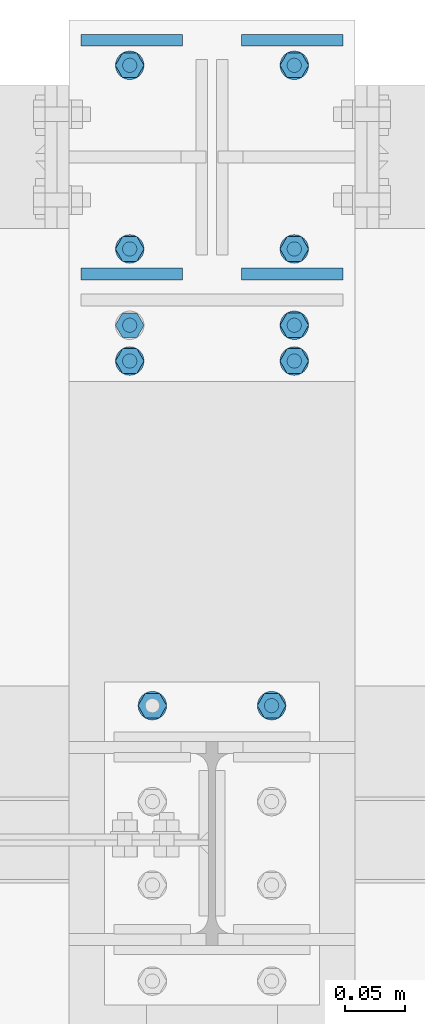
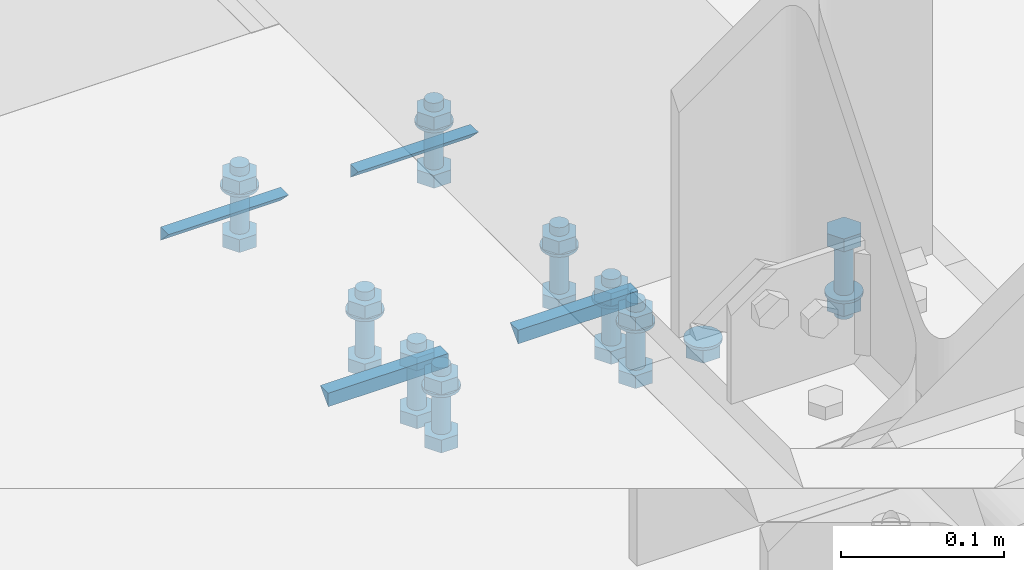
# One storey, part 44 of 66: 37 mechanical fasteners, 8 fasteners.
"""IFC4 building model written with IfcOpenShell, lengths in metres."""

from ifc_helpers import new_model, si_unit, frame, origin_with_axes, place, context, project, spatial, polyline, outline, extrude, type_object, element, save


model = new_model("IFC4")

# Units and contexts
model_context = context("Model", 3, precision=1e-05, world=origin_with_axes())
ifc_project = project(units=[si_unit("LENGTHUNIT", "METRE"), si_unit("AREAUNIT", "SQUARE_METRE"), si_unit("VOLUMEUNIT", "CUBIC_METRE"), si_unit("MASSUNIT", "GRAM", prefix="KILO"), si_unit("TIMEUNIT", "SECOND"), si_unit("PLANEANGLEUNIT", "RADIAN"), si_unit("SOLIDANGLEUNIT", "STERADIAN"), si_unit("THERMODYNAMICTEMPERATUREUNIT", "DEGREE_CELSIUS")], contexts=[model_context])

# Site, building, storey
placement_1 = place(None, origin_with_axes())
site = spatial("IfcSite", under=ifc_project, at=placement_1, Name="Italia", CompositionType="ELEMENT")
building = spatial("IfcBuilding", under=site, at=placement_1, Name="Uffici", CompositionType="ELEMENT")
storey_placement = place(None, frame((0.0, 0.0, 3.299999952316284), z_axis=(0.0, 0.0, 1.0), x_axis=(1.0, 0.0, 0.0)))
storey = spatial("IfcBuildingStorey", under=building, at=storey_placement, Name="Storey 1", CompositionType="ELEMENT", Elevation=3.299999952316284)

# Mechanical fasteners
mechanical_fastener_type_1 = type_object("IfcMechanicalFastenerType", Name="Collegamento 0107_0207", PredefinedType="BOLT")
placement_2 = place(placement_1, origin_with_axes())
mechanical_fastener_1_placement = place(placement_2, origin_with_axes())
element("IfcMechanicalFastener", 1, at=mechanical_fastener_1_placement, inside=storey, type_object=mechanical_fastener_type_1, Name="Collegamento 0107_0207", NominalDiameter=0.0119998, context=model_context, shape_type="SweptSolid", body=[
    extrude(outline(polyline([(0.0, 0.0), (0.0, 0.0120001), (0.0103922, 0.0180001), (0.0207844, 0.0120001), (0.0207844, 0.0), (0.0103922, -0.0059998), (0.0, 0.0)])), frame((3.161, 4.91961, 3.2714), z_axis=(0.0, 0.0, 1.0), x_axis=(0.0, 1.0, 0.0)), (0.0, 0.0, 1.0), 0.00959992),
])
mechanical_fastener_type_2 = type_object("IfcMechanicalFastenerType", Name="Collegamento 0107_0207", PredefinedType="BOLT")
mechanical_fastener_2_placement = place(placement_2, origin_with_axes())
element("IfcMechanicalFastener", 2, at=mechanical_fastener_2_placement, inside=storey, type_object=mechanical_fastener_type_2, Name="Collegamento 0107_0207", NominalDiameter=0.024, context=model_context, shape_type="SweptSolid", body=[
    extrude(outline(polyline([(0.0, 0.0), (-0.000409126, -0.00310588), (-0.00160789, -0.00600004), (-0.00351477, -0.00848532), (-0.00600004, -0.0103922), (-0.00889444, -0.0115912), (-0.0120001, -0.0120001), (-0.0151057, -0.0115912), (-0.0180001, -0.0103922), (-0.0204854, -0.00848532), (-0.0223923, -0.00600004), (-0.023591, -0.00310588), (-0.0240002, 0.0), (-0.023591, 0.00310588), (-0.0223923, 0.00600004), (-0.0204854, 0.00848532), (-0.0180001, 0.0103922), (-0.0151057, 0.0115912), (-0.0120001, 0.0120001), (-0.00889444, 0.0115912), (-0.00600004, 0.0103922), (-0.00351477, 0.00848532), (-0.00160789, 0.00600004), (-0.000409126, 0.00310588), (0.0, 0.0)])), frame((3.155, 4.942, 3.281), z_axis=(0.0, 0.0, 1.0), x_axis=(0.0, 1.0, 0.0)), (0.0, 0.0, 1.0), 0.00200009),
])
mechanical_fastener_type_3 = type_object("IfcMechanicalFastenerType", Name="Collegamento 0107_0207", PredefinedType="BOLT")
mechanical_fastener_3_placement = place(placement_2, origin_with_axes())
element("IfcMechanicalFastener", 3, at=mechanical_fastener_3_placement, inside=storey, type_object=mechanical_fastener_type_3, Name="Collegamento 0107_0207", NominalDiameter=0.0119998, context=model_context, shape_type="SweptSolid", body=[
    extrude(outline(polyline([(0.0, 0.0), (0.0, 0.0120001), (0.0103922, 0.0179999), (0.0207844, 0.0120001), (0.0207844, 0.0), (0.0103922, -0.00600004), (0.0, 0.0)])), frame((3.261, 4.91961, 3.32), z_axis=(0.0, 0.0, 1.0), x_axis=(0.0, 1.0, 0.0)), (0.0, 0.0, 1.0), 0.00959992),
])
mechanical_fastener_type_4 = type_object("IfcMechanicalFastenerType", Name="Collegamento 0107_0207", PredefinedType="BOLT")
mechanical_fastener_4_placement = place(placement_2, origin_with_axes())
element("IfcMechanicalFastener", 4, at=mechanical_fastener_4_placement, inside=storey, type_object=mechanical_fastener_type_4, Name="Collegamento 0107_0207", NominalDiameter=0.012, context=model_context, shape_type="SweptSolid", body=[
    extrude(outline(polyline([(0.0, 0.0), (-0.000204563, -0.00155282), (-0.000803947, -0.00300002), (-0.00175762, -0.00424266), (-0.00300026, -0.00519609), (-0.00444698, -0.00579548), (-0.00600004, -0.00600004), (-0.0075531, -0.00579548), (-0.00899982, -0.00519609), (-0.0102425, -0.00424266), (-0.0111961, -0.00300002), (-0.0117955, -0.00155282), (-0.0120001, 0.0), (-0.0117955, 0.00155282), (-0.0111961, 0.00300002), (-0.0102425, 0.00424266), (-0.00899982, 0.00519609), (-0.0075531, 0.00579548), (-0.00600004, 0.00600004), (-0.00444698, 0.00579548), (-0.00300026, 0.00519609), (-0.00175762, 0.00424266), (-0.000803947, 0.00300002), (-0.000204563, 0.00155282), (0.0, 0.0)])), frame((3.255, 4.936, 3.265), z_axis=(0.0, 0.0, 1.0), x_axis=(0.0, 1.0, 0.0)), (0.0, 0.0, 1.0), 0.0550001),
])
mechanical_fastener_type_5 = type_object("IfcMechanicalFastenerType", Name="Collegamento 0107_0207", PredefinedType="BOLT")
mechanical_fastener_5_placement = place(placement_2, origin_with_axes())
element("IfcMechanicalFastener", 5, at=mechanical_fastener_5_placement, inside=storey, type_object=mechanical_fastener_type_5, Name="Collegamento 0107_0207", NominalDiameter=0.0119998, context=model_context, shape_type="SweptSolid", body=[
    extrude(outline(polyline([(0.0, 0.0), (0.0, 0.0120001), (0.0103922, 0.0179999), (0.0207844, 0.0120001), (0.0207844, 0.0), (0.0103922, -0.00600004), (0.0, 0.0)])), frame((3.261, 4.91961, 3.2714), z_axis=(0.0, 0.0, 1.0), x_axis=(0.0, 1.0, 0.0)), (0.0, 0.0, 1.0), 0.00959992),
])
mechanical_fastener_type_6 = type_object("IfcMechanicalFastenerType", Name="Collegamento 0107_0207", PredefinedType="BOLT")
mechanical_fastener_6_placement = place(placement_2, origin_with_axes())
element("IfcMechanicalFastener", 6, at=mechanical_fastener_6_placement, inside=storey, type_object=mechanical_fastener_type_6, Name="Collegamento 0107_0207", NominalDiameter=0.024, context=model_context, shape_type="SweptSolid", body=[
    extrude(outline(polyline([(0.0, 0.0), (-0.000409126, -0.00310588), (-0.00160789, -0.00600004), (-0.00351477, -0.00848532), (-0.00600004, -0.0103922), (-0.00889444, -0.0115912), (-0.0120001, -0.0120001), (-0.0151057, -0.0115912), (-0.0180001, -0.0103922), (-0.0204854, -0.00848532), (-0.0223923, -0.00600004), (-0.023591, -0.00310588), (-0.0240002, 0.0), (-0.023591, 0.00310588), (-0.0223923, 0.00600004), (-0.0204854, 0.00848532), (-0.0180001, 0.0103922), (-0.0151057, 0.0115912), (-0.0120001, 0.0120001), (-0.00889444, 0.0115912), (-0.00600004, 0.0103922), (-0.00351477, 0.00848532), (-0.00160789, 0.00600004), (-0.000409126, 0.00310588), (0.0, 0.0)])), frame((3.255, 4.942, 3.281), z_axis=(0.0, 0.0, 1.0), x_axis=(0.0, 1.0, 0.0)), (0.0, 0.0, 1.0), 0.00200009),
])

# Fasteners
fastener_type_1 = type_object("IfcFastenerType", Name="Collegamenti 0111_0011 0112_0012 0113_0013 0114_0014 0115_0015", PredefinedType="WELD")
fastener_1_placement = place(placement_2, origin_with_axes())
element("IfcFastener", 7, at=fastener_1_placement, inside=storey, type_object=fastener_type_1, Name="Collegamenti 0111_0011 0112_0012 0113_0013 0114_0014 0115_0015", context=model_context, shape_type="SweptSolid", body=[
    extrude(outline(polyline([(0.0, 0.0), (-0.00986814, -0.0101733), (-0.00986814, 0.0), (0.0, 0.0)])), frame((3.31505, 5.48318, 3.04505), z_axis=(-1.0, 0.0, 0.0), x_axis=(0.0, -1.0, 0.0)), (0.0, 0.0, 1.0), 0.08535),
])
fastener_type_2 = type_object("IfcFastenerType", Name="Collegamenti 0111_0011 0112_0012 0113_0013 0114_0014 0115_0015", PredefinedType="WELD")
fastener_2_placement = place(placement_2, origin_with_axes())
element("IfcFastener", 8, at=fastener_2_placement, inside=storey, type_object=fastener_type_2, Name="Collegamenti 0111_0011 0112_0012 0113_0013 0114_0014 0115_0015", context=model_context, shape_type="SweptSolid", body=[
    extrude(outline(polyline([(0.0, 0.0), (-0.00986814, -0.0101733), (-0.00986814, 0.0), (0.0, 0.0)])), frame((3.2297, 5.29682, 3.04505), z_axis=(1.0, 0.0, 0.0), x_axis=(0.0, 1.0, 0.0)), (0.0, 0.0, 1.0), 0.08535),
])
fastener_type_3 = type_object("IfcFastenerType", Name="Collegamenti 0111_0011 0112_0012 0113_0013 0114_0014 0115_0015", PredefinedType="WELD")
fastener_3_placement = place(placement_2, origin_with_axes())
element("IfcFastener", 9, at=fastener_3_placement, inside=storey, type_object=fastener_type_3, Name="Collegamenti 0111_0011 0112_0012 0113_0013 0114_0014 0115_0015", context=model_context, shape_type="SweptSolid", body=[
    extrude(outline(polyline([(0.0, 0.0), (-0.00986814, -0.0101733), (-0.00986814, 0.0), (0.0, 0.0)])), frame((3.09495, 5.29682, 3.04505), z_axis=(1.0, 0.0, 0.0), x_axis=(0.0, 1.0, 0.0)), (0.0, 0.0, 1.0), 0.08535),
])
fastener_type_4 = type_object("IfcFastenerType", Name="Collegamenti 0111_0011 0112_0012 0113_0013 0114_0014 0115_0015", PredefinedType="WELD")
fastener_4_placement = place(placement_2, origin_with_axes())
element("IfcFastener", 10, at=fastener_4_placement, inside=storey, type_object=fastener_type_4, Name="Collegamenti 0111_0011 0112_0012 0113_0013 0114_0014 0115_0015", context=model_context, shape_type="SweptSolid", body=[
    extrude(outline(polyline([(0.0, 0.0), (-0.00986814, -0.0101733), (-0.00986814, 0.0), (0.0, 0.0)])), frame((3.1803, 5.48318, 3.04505), z_axis=(-1.0, 0.0, 0.0), x_axis=(0.0, -1.0, 0.0)), (0.0, 0.0, 1.0), 0.08535),
])
fastener_type_5 = type_object("IfcFastenerType", Name="Collegamenti 0111_0011 0112_0012 0113_0013 0114_0014 0115_0015", PredefinedType="WELD")
fastener_5_placement = place(placement_2, origin_with_axes())
element("IfcFastener", 11, at=fastener_5_placement, inside=storey, type_object=fastener_type_5, Name="Collegamenti 0111_0011 0112_0012 0113_0013 0114_0014 0115_0015", context=model_context, shape_type="SweptSolid", body=[
    extrude(outline(polyline([(0.0, 0.0), (-0.00986814, -0.0101733), (-0.00986814, 0.0), (0.0, 0.0)])), frame((3.31505, 5.48318, 3.04505), z_axis=(-1.0, 0.0, 0.0), x_axis=(0.0, -1.0, 0.0)), (0.0, 0.0, 1.0), 0.08535),
])
fastener_type_6 = type_object("IfcFastenerType", Name="Collegamenti 0111_0011 0112_0012 0113_0013 0114_0014 0115_0015", PredefinedType="WELD")
fastener_6_placement = place(placement_2, origin_with_axes())
element("IfcFastener", 12, at=fastener_6_placement, inside=storey, type_object=fastener_type_6, Name="Collegamenti 0111_0011 0112_0012 0113_0013 0114_0014 0115_0015", context=model_context, shape_type="SweptSolid", body=[
    extrude(outline(polyline([(0.0, 0.0), (-0.00986814, -0.0101733), (-0.00986814, 0.0), (0.0, 0.0)])), frame((3.2297, 5.29682, 3.04505), z_axis=(1.0, 0.0, 0.0), x_axis=(0.0, 1.0, 0.0)), (0.0, 0.0, 1.0), 0.08535),
])
fastener_type_7 = type_object("IfcFastenerType", Name="Collegamenti 0111_0011 0112_0012 0113_0013 0114_0014 0115_0015", PredefinedType="WELD")
fastener_7_placement = place(placement_2, origin_with_axes())
element("IfcFastener", 13, at=fastener_7_placement, inside=storey, type_object=fastener_type_7, Name="Collegamenti 0111_0011 0112_0012 0113_0013 0114_0014 0115_0015", context=model_context, shape_type="SweptSolid", body=[
    extrude(outline(polyline([(0.0, 0.0), (-0.00986814, -0.0101733), (-0.00986814, 0.0), (0.0, 0.0)])), frame((3.09495, 5.29682, 3.04505), z_axis=(1.0, 0.0, 0.0), x_axis=(0.0, 1.0, 0.0)), (0.0, 0.0, 1.0), 0.08535),
])
fastener_type_8 = type_object("IfcFastenerType", Name="Collegamenti 0111_0011 0112_0012 0113_0013 0114_0014 0115_0015", PredefinedType="WELD")
fastener_8_placement = place(placement_2, origin_with_axes())
element("IfcFastener", 14, at=fastener_8_placement, inside=storey, type_object=fastener_type_8, Name="Collegamenti 0111_0011 0112_0012 0113_0013 0114_0014 0115_0015", context=model_context, shape_type="SweptSolid", body=[
    extrude(outline(polyline([(0.0, 0.0), (-0.00986814, -0.0101733), (-0.00986814, 0.0), (0.0, 0.0)])), frame((3.1803, 5.48318, 3.04505), z_axis=(-1.0, 0.0, 0.0), x_axis=(0.0, -1.0, 0.0)), (0.0, 0.0, 1.0), 0.08535),
])

# Mechanical fasteners
mechanical_fastener_type_7 = type_object("IfcMechanicalFastenerType", Name="Collegamenti 0111_0011 0112_0012 0113_0013 0114_0014 0115_0015", PredefinedType="BOLT")
mechanical_fastener_7_placement = place(placement_2, origin_with_axes())
element("IfcMechanicalFastener", 15, at=mechanical_fastener_7_placement, inside=storey, type_object=mechanical_fastener_type_7, Name="Collegamenti 0111_0011 0112_0012 0113_0013 0114_0014 0115_0015", NominalDiameter=0.0119999, context=model_context, shape_type="SweptSolid", body=[
    extrude(outline(polyline([(0.0, 0.0), (0.0, 0.0120001), (0.0103922, 0.0180001), (0.0207849, 0.0120001), (0.0207849, 0.0), (0.0103922, -0.00600004), (0.0, 0.0)])), frame((3.268, 5.30261, 3.045), z_axis=(0.0, 0.0, -1.0), x_axis=(0.0, 1.0, 0.0)), (0.0, 0.0, 1.0), 0.00959992),
])
mechanical_fastener_type_8 = type_object("IfcMechanicalFastenerType", Name="Collegamenti 0111_0011 0112_0012 0113_0013 0114_0014 0115_0015", PredefinedType="BOLT")
mechanical_fastener_8_placement = place(placement_2, origin_with_axes())
element("IfcMechanicalFastener", 16, at=mechanical_fastener_8_placement, inside=storey, type_object=mechanical_fastener_type_8, Name="Collegamenti 0111_0011 0112_0012 0113_0013 0114_0014 0115_0015", NominalDiameter=0.012, context=model_context, shape_type="SweptSolid", body=[
    extrude(outline(polyline([(0.0, 0.0), (-0.000204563, -0.00155282), (-0.000803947, -0.00300002), (-0.00175762, -0.00424266), (-0.00300026, -0.00519609), (-0.00444698, -0.00579548), (-0.00600004, -0.00600004), (-0.0075531, -0.00579548), (-0.00899982, -0.00519609), (-0.0102425, -0.00424266), (-0.0111961, -0.00300002), (-0.0117955, -0.00155282), (-0.0120001, 0.0), (-0.0117955, 0.00155282), (-0.0111961, 0.00300002), (-0.0102425, 0.00424266), (-0.00899982, 0.00519609), (-0.0075531, 0.00579548), (-0.00600004, 0.00600004), (-0.00444698, 0.00579548), (-0.00300026, 0.00519609), (-0.00175762, 0.00424266), (-0.000803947, 0.00300002), (-0.000204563, 0.00155282), (0.0, 0.0)])), frame((3.274, 5.319, 3.095), z_axis=(0.0, 0.0, -1.0), x_axis=(0.0, 1.0, 0.0)), (0.0, 0.0, 1.0), 0.0500002),
])
mechanical_fastener_type_9 = type_object("IfcMechanicalFastenerType", Name="Collegamenti 0111_0011 0112_0012 0113_0013 0114_0014 0115_0015", PredefinedType="BOLT")
mechanical_fastener_9_placement = place(placement_2, origin_with_axes())
element("IfcMechanicalFastener", 17, at=mechanical_fastener_9_placement, inside=storey, type_object=mechanical_fastener_type_9, Name="Collegamenti 0111_0011 0112_0012 0113_0013 0114_0014 0115_0015", NominalDiameter=0.0119999, context=model_context, shape_type="SweptSolid", body=[
    extrude(outline(polyline([(0.0, 0.0), (0.0, 0.0120001), (0.0103922, 0.0180001), (0.0207849, 0.0120001), (0.0207849, 0.0), (0.0103922, -0.00600004), (0.0, 0.0)])), frame((3.268, 5.30261, 3.0886), z_axis=(0.0, 0.0, -1.0), x_axis=(0.0, 1.0, 0.0)), (0.0, 0.0, 1.0), 0.00959992),
])
mechanical_fastener_type_10 = type_object("IfcMechanicalFastenerType", Name="Collegamenti 0111_0011 0112_0012 0113_0013 0114_0014 0115_0015", PredefinedType="BOLT")
mechanical_fastener_10_placement = place(placement_2, origin_with_axes())
element("IfcMechanicalFastener", 18, at=mechanical_fastener_10_placement, inside=storey, type_object=mechanical_fastener_type_10, Name="Collegamenti 0111_0011 0112_0012 0113_0013 0114_0014 0115_0015", NominalDiameter=0.024, context=model_context, shape_type="SweptSolid", body=[
    extrude(outline(polyline([(0.0, 0.0), (-0.000409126, -0.00310588), (-0.00160789, -0.00600004), (-0.00351477, -0.00848532), (-0.00600004, -0.0103922), (-0.00889444, -0.0115912), (-0.0120001, -0.0120001), (-0.0151057, -0.0115912), (-0.0180001, -0.0103922), (-0.0204854, -0.00848532), (-0.0223923, -0.00600004), (-0.023591, -0.00310588), (-0.0240002, 0.0), (-0.023591, 0.00310588), (-0.0223923, 0.00600004), (-0.0204854, 0.00848532), (-0.0180001, 0.0103922), (-0.0151057, 0.0115912), (-0.0120001, 0.0120001), (-0.00889444, 0.0115912), (-0.00600004, 0.0103922), (-0.00351477, 0.00848532), (-0.00160789, 0.00600004), (-0.000409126, 0.00310588), (0.0, 0.0)])), frame((3.274, 5.325, 3.079), z_axis=(0.0, 0.0, -1.0), x_axis=(0.0, 1.0, 0.0)), (0.0, 0.0, 1.0), 0.00200009),
])
mechanical_fastener_type_11 = type_object("IfcMechanicalFastenerType", Name="Collegamenti 0111_0011 0112_0012 0113_0013 0114_0014 0115_0015", PredefinedType="BOLT")
mechanical_fastener_11_placement = place(placement_2, origin_with_axes())
element("IfcMechanicalFastener", 19, at=mechanical_fastener_11_placement, inside=storey, type_object=mechanical_fastener_type_11, Name="Collegamenti 0111_0011 0112_0012 0113_0013 0114_0014 0115_0015", NominalDiameter=0.0119999, context=model_context, shape_type="SweptSolid", body=[
    extrude(outline(polyline([(0.0, 0.0), (0.0, 0.0120001), (0.0103922, 0.0180001), (0.0207849, 0.0120001), (0.0207849, 0.0), (0.0103922, -0.00600004), (0.0, 0.0)])), frame((3.13, 5.30261, 3.045), z_axis=(0.0, 0.0, -1.0), x_axis=(0.0, 1.0, 0.0)), (0.0, 0.0, 1.0), 0.00959992),
])
mechanical_fastener_type_12 = type_object("IfcMechanicalFastenerType", Name="Collegamenti 0111_0011 0112_0012 0113_0013 0114_0014 0115_0015", PredefinedType="BOLT")
mechanical_fastener_12_placement = place(placement_2, origin_with_axes())
element("IfcMechanicalFastener", 20, at=mechanical_fastener_12_placement, inside=storey, type_object=mechanical_fastener_type_12, Name="Collegamenti 0111_0011 0112_0012 0113_0013 0114_0014 0115_0015", NominalDiameter=0.012, context=model_context, shape_type="SweptSolid", body=[
    extrude(outline(polyline([(0.0, 0.0), (-0.000204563, -0.00155282), (-0.000803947, -0.00300002), (-0.00175762, -0.00424266), (-0.00300026, -0.00519609), (-0.00444698, -0.00579548), (-0.00600004, -0.00600004), (-0.0075531, -0.00579548), (-0.00899982, -0.00519609), (-0.0102425, -0.00424266), (-0.0111961, -0.00300002), (-0.0117955, -0.00155282), (-0.0120001, 0.0), (-0.0117955, 0.00155282), (-0.0111961, 0.00300002), (-0.0102425, 0.00424266), (-0.00899982, 0.00519609), (-0.0075531, 0.00579548), (-0.00600004, 0.00600004), (-0.00444698, 0.00579548), (-0.00300026, 0.00519609), (-0.00175762, 0.00424266), (-0.000803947, 0.00300002), (-0.000204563, 0.00155282), (0.0, 0.0)])), frame((3.136, 5.319, 3.095), z_axis=(0.0, 0.0, -1.0), x_axis=(0.0, 1.0, 0.0)), (0.0, 0.0, 1.0), 0.0500002),
])
mechanical_fastener_type_13 = type_object("IfcMechanicalFastenerType", Name="Collegamenti 0111_0011 0112_0012 0113_0013 0114_0014 0115_0015", PredefinedType="BOLT")
mechanical_fastener_13_placement = place(placement_2, origin_with_axes())
element("IfcMechanicalFastener", 21, at=mechanical_fastener_13_placement, inside=storey, type_object=mechanical_fastener_type_13, Name="Collegamenti 0111_0011 0112_0012 0113_0013 0114_0014 0115_0015", NominalDiameter=0.0119999, context=model_context, shape_type="SweptSolid", body=[
    extrude(outline(polyline([(0.0, 0.0), (0.0, 0.0120001), (0.0103922, 0.0180001), (0.0207849, 0.0120001), (0.0207849, 0.0), (0.0103922, -0.00600004), (0.0, 0.0)])), frame((3.13, 5.30261, 3.0886), z_axis=(0.0, 0.0, -1.0), x_axis=(0.0, 1.0, 0.0)), (0.0, 0.0, 1.0), 0.00959992),
])
mechanical_fastener_type_14 = type_object("IfcMechanicalFastenerType", Name="Collegamenti 0111_0011 0112_0012 0113_0013 0114_0014 0115_0015", PredefinedType="BOLT")
mechanical_fastener_14_placement = place(placement_2, origin_with_axes())
element("IfcMechanicalFastener", 22, at=mechanical_fastener_14_placement, inside=storey, type_object=mechanical_fastener_type_14, Name="Collegamenti 0111_0011 0112_0012 0113_0013 0114_0014 0115_0015", NominalDiameter=0.024, context=model_context, shape_type="SweptSolid", body=[
    extrude(outline(polyline([(0.0, 0.0), (-0.000409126, -0.00310588), (-0.00160789, -0.00600004), (-0.00351477, -0.00848532), (-0.00600004, -0.0103922), (-0.00889444, -0.0115912), (-0.0120001, -0.0120001), (-0.0151057, -0.0115912), (-0.0180001, -0.0103922), (-0.0204854, -0.00848532), (-0.0223923, -0.00600004), (-0.023591, -0.00310588), (-0.0240002, 0.0), (-0.023591, 0.00310588), (-0.0223923, 0.00600004), (-0.0204854, 0.00848532), (-0.0180001, 0.0103922), (-0.0151057, 0.0115912), (-0.0120001, 0.0120001), (-0.00889444, 0.0115912), (-0.00600004, 0.0103922), (-0.00351477, 0.00848532), (-0.00160789, 0.00600004), (-0.000409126, 0.00310588), (0.0, 0.0)])), frame((3.136, 5.325, 3.079), z_axis=(0.0, 0.0, -1.0), x_axis=(0.0, 1.0, 0.0)), (0.0, 0.0, 1.0), 0.00200009),
])
mechanical_fastener_type_15 = type_object("IfcMechanicalFastenerType", Name="Collegamenti 0111_0011 0112_0012 0113_0013 0114_0014 0115_0015", PredefinedType="BOLT")
mechanical_fastener_15_placement = place(placement_2, origin_with_axes())
element("IfcMechanicalFastener", 23, at=mechanical_fastener_15_placement, inside=storey, type_object=mechanical_fastener_type_15, Name="Collegamenti 0111_0011 0112_0012 0113_0013 0114_0014 0115_0015", NominalDiameter=0.0119999, context=model_context, shape_type="SweptSolid", body=[
    extrude(outline(polyline([(0.0, 0.0), (0.0, 0.0120001), (0.0103927, 0.0180001), (0.0207849, 0.0120001), (0.0207849, 0.0), (0.0103927, -0.00600004), (0.0, 0.0)])), frame((3.268, 5.45661, 3.045), z_axis=(0.0, 0.0, -1.0), x_axis=(0.0, 1.0, 0.0)), (0.0, 0.0, 1.0), 0.00959992),
])
mechanical_fastener_type_16 = type_object("IfcMechanicalFastenerType", Name="Collegamenti 0111_0011 0112_0012 0113_0013 0114_0014 0115_0015", PredefinedType="BOLT")
mechanical_fastener_16_placement = place(placement_2, origin_with_axes())
element("IfcMechanicalFastener", 24, at=mechanical_fastener_16_placement, inside=storey, type_object=mechanical_fastener_type_16, Name="Collegamenti 0111_0011 0112_0012 0113_0013 0114_0014 0115_0015", NominalDiameter=0.012, context=model_context, shape_type="SweptSolid", body=[
    extrude(outline(polyline([(0.0, 0.0), (-0.000204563, -0.00155282), (-0.000803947, -0.00300002), (-0.00175762, -0.00424266), (-0.00300026, -0.00519609), (-0.00444698, -0.00579548), (-0.00600004, -0.00600004), (-0.0075531, -0.00579548), (-0.00899982, -0.00519609), (-0.0102425, -0.00424266), (-0.0111961, -0.00300002), (-0.0117955, -0.00155282), (-0.0120001, 0.0), (-0.0117955, 0.00155282), (-0.0111961, 0.00300002), (-0.0102425, 0.00424266), (-0.00899982, 0.00519609), (-0.0075531, 0.00579548), (-0.00600004, 0.00600004), (-0.00444698, 0.00579548), (-0.00300026, 0.00519609), (-0.00175762, 0.00424266), (-0.000803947, 0.00300002), (-0.000204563, 0.00155282), (0.0, 0.0)])), frame((3.274, 5.473, 3.095), z_axis=(0.0, 0.0, -1.0), x_axis=(0.0, 1.0, 0.0)), (0.0, 0.0, 1.0), 0.0500002),
])
mechanical_fastener_type_17 = type_object("IfcMechanicalFastenerType", Name="Collegamenti 0111_0011 0112_0012 0113_0013 0114_0014 0115_0015", PredefinedType="BOLT")
mechanical_fastener_17_placement = place(placement_2, origin_with_axes())
element("IfcMechanicalFastener", 25, at=mechanical_fastener_17_placement, inside=storey, type_object=mechanical_fastener_type_17, Name="Collegamenti 0111_0011 0112_0012 0113_0013 0114_0014 0115_0015", NominalDiameter=0.0119999, context=model_context, shape_type="SweptSolid", body=[
    extrude(outline(polyline([(0.0, 0.0), (0.0, 0.0120001), (0.0103927, 0.0180001), (0.0207849, 0.0120001), (0.0207849, 0.0), (0.0103927, -0.00600004), (0.0, 0.0)])), frame((3.268, 5.45661, 3.0886), z_axis=(0.0, 0.0, -1.0), x_axis=(0.0, 1.0, 0.0)), (0.0, 0.0, 1.0), 0.00959992),
])
mechanical_fastener_type_18 = type_object("IfcMechanicalFastenerType", Name="Collegamenti 0111_0011 0112_0012 0113_0013 0114_0014 0115_0015", PredefinedType="BOLT")
mechanical_fastener_18_placement = place(placement_2, origin_with_axes())
element("IfcMechanicalFastener", 26, at=mechanical_fastener_18_placement, inside=storey, type_object=mechanical_fastener_type_18, Name="Collegamenti 0111_0011 0112_0012 0113_0013 0114_0014 0115_0015", NominalDiameter=0.024, context=model_context, shape_type="SweptSolid", body=[
    extrude(outline(polyline([(0.0, 0.0), (-0.000409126, -0.00310588), (-0.00160789, -0.00600004), (-0.00351477, -0.00848532), (-0.00600004, -0.0103922), (-0.00889444, -0.0115912), (-0.0120001, -0.0120001), (-0.0151057, -0.0115912), (-0.0180001, -0.0103922), (-0.0204854, -0.00848532), (-0.0223923, -0.00600004), (-0.023591, -0.00310588), (-0.0240002, 0.0), (-0.023591, 0.00310588), (-0.0223923, 0.00600004), (-0.0204854, 0.00848532), (-0.0180001, 0.0103922), (-0.0151057, 0.0115912), (-0.0120001, 0.0120001), (-0.00889444, 0.0115912), (-0.00600004, 0.0103922), (-0.00351477, 0.00848532), (-0.00160789, 0.00600004), (-0.000409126, 0.00310588), (0.0, 0.0)])), frame((3.274, 5.479, 3.079), z_axis=(0.0, 0.0, -1.0), x_axis=(0.0, 1.0, 0.0)), (0.0, 0.0, 1.0), 0.00200009),
])
mechanical_fastener_type_19 = type_object("IfcMechanicalFastenerType", Name="Collegamenti 0111_0011 0112_0012 0113_0013 0114_0014 0115_0015", PredefinedType="BOLT")
mechanical_fastener_19_placement = place(placement_2, origin_with_axes())
element("IfcMechanicalFastener", 27, at=mechanical_fastener_19_placement, inside=storey, type_object=mechanical_fastener_type_19, Name="Collegamenti 0111_0011 0112_0012 0113_0013 0114_0014 0115_0015", NominalDiameter=0.0119999, context=model_context, shape_type="SweptSolid", body=[
    extrude(outline(polyline([(0.0, 0.0), (0.0, 0.0120001), (0.0103927, 0.0180001), (0.0207849, 0.0120001), (0.0207849, 0.0), (0.0103927, -0.00600004), (0.0, 0.0)])), frame((3.13, 5.45661, 3.045), z_axis=(0.0, 0.0, -1.0), x_axis=(0.0, 1.0, 0.0)), (0.0, 0.0, 1.0), 0.00959992),
])
mechanical_fastener_type_20 = type_object("IfcMechanicalFastenerType", Name="Collegamenti 0111_0011 0112_0012 0113_0013 0114_0014 0115_0015", PredefinedType="BOLT")
mechanical_fastener_20_placement = place(placement_2, origin_with_axes())
element("IfcMechanicalFastener", 28, at=mechanical_fastener_20_placement, inside=storey, type_object=mechanical_fastener_type_20, Name="Collegamenti 0111_0011 0112_0012 0113_0013 0114_0014 0115_0015", NominalDiameter=0.012, context=model_context, shape_type="SweptSolid", body=[
    extrude(outline(polyline([(0.0, 0.0), (-0.000204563, -0.00155282), (-0.000803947, -0.00300002), (-0.00175762, -0.00424266), (-0.00300026, -0.00519609), (-0.00444698, -0.00579548), (-0.00600004, -0.00600004), (-0.0075531, -0.00579548), (-0.00899982, -0.00519609), (-0.0102425, -0.00424266), (-0.0111961, -0.00300002), (-0.0117955, -0.00155282), (-0.0120001, 0.0), (-0.0117955, 0.00155282), (-0.0111961, 0.00300002), (-0.0102425, 0.00424266), (-0.00899982, 0.00519609), (-0.0075531, 0.00579548), (-0.00600004, 0.00600004), (-0.00444698, 0.00579548), (-0.00300026, 0.00519609), (-0.00175762, 0.00424266), (-0.000803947, 0.00300002), (-0.000204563, 0.00155282), (0.0, 0.0)])), frame((3.136, 5.473, 3.095), z_axis=(0.0, 0.0, -1.0), x_axis=(0.0, 1.0, 0.0)), (0.0, 0.0, 1.0), 0.0500002),
])
mechanical_fastener_type_21 = type_object("IfcMechanicalFastenerType", Name="Collegamenti 0111_0011 0112_0012 0113_0013 0114_0014 0115_0015", PredefinedType="BOLT")
mechanical_fastener_21_placement = place(placement_2, origin_with_axes())
element("IfcMechanicalFastener", 29, at=mechanical_fastener_21_placement, inside=storey, type_object=mechanical_fastener_type_21, Name="Collegamenti 0111_0011 0112_0012 0113_0013 0114_0014 0115_0015", NominalDiameter=0.0119999, context=model_context, shape_type="SweptSolid", body=[
    extrude(outline(polyline([(0.0, 0.0), (0.0, 0.0120001), (0.0103927, 0.0180001), (0.0207849, 0.0120001), (0.0207849, 0.0), (0.0103927, -0.00600004), (0.0, 0.0)])), frame((3.13, 5.45661, 3.0886), z_axis=(0.0, 0.0, -1.0), x_axis=(0.0, 1.0, 0.0)), (0.0, 0.0, 1.0), 0.00959992),
])
mechanical_fastener_type_22 = type_object("IfcMechanicalFastenerType", Name="Collegamenti 0111_0011 0112_0012 0113_0013 0114_0014 0115_0015", PredefinedType="BOLT")
mechanical_fastener_22_placement = place(placement_2, origin_with_axes())
element("IfcMechanicalFastener", 30, at=mechanical_fastener_22_placement, inside=storey, type_object=mechanical_fastener_type_22, Name="Collegamenti 0111_0011 0112_0012 0113_0013 0114_0014 0115_0015", NominalDiameter=0.024, context=model_context, shape_type="SweptSolid", body=[
    extrude(outline(polyline([(0.0, 0.0), (-0.000409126, -0.00310588), (-0.00160789, -0.00600004), (-0.00351477, -0.00848532), (-0.00600004, -0.0103922), (-0.00889444, -0.0115912), (-0.0120001, -0.0120001), (-0.0151057, -0.0115912), (-0.0180001, -0.0103922), (-0.0204854, -0.00848532), (-0.0223923, -0.00600004), (-0.023591, -0.00310588), (-0.0240002, 0.0), (-0.023591, 0.00310588), (-0.0223923, 0.00600004), (-0.0204854, 0.00848532), (-0.0180001, 0.0103922), (-0.0151057, 0.0115912), (-0.0120001, 0.0120001), (-0.00889444, 0.0115912), (-0.00600004, 0.0103922), (-0.00351477, 0.00848532), (-0.00160789, 0.00600004), (-0.000409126, 0.00310588), (0.0, 0.0)])), frame((3.136, 5.479, 3.079), z_axis=(0.0, 0.0, -1.0), x_axis=(0.0, 1.0, 0.0)), (0.0, 0.0, 1.0), 0.00200009),
])
mechanical_fastener_type_23 = type_object("IfcMechanicalFastenerType", Name="Collegamenti 0111_0011 0112_0012 0113_0013 0114_0014 0115_0015", PredefinedType="BOLT")
mechanical_fastener_23_placement = place(placement_2, origin_with_axes())
element("IfcMechanicalFastener", 31, at=mechanical_fastener_23_placement, inside=storey, type_object=mechanical_fastener_type_23, Name="Collegamenti 0111_0011 0112_0012 0113_0013 0114_0014 0115_0015", NominalDiameter=0.0119999, context=model_context, shape_type="SweptSolid", body=[
    extrude(outline(polyline([(0.0, 0.0), (0.0, 0.0120001), (0.0103922, 0.0180001), (0.0207844, 0.0120001), (0.0207844, 0.0), (0.0103922, -0.00600004), (0.0, 0.0)])), frame((3.268, 5.20861, 3.045), z_axis=(0.0, 0.0, -1.0), x_axis=(0.0, 1.0, 0.0)), (0.0, 0.0, 1.0), 0.00959992),
])
mechanical_fastener_type_24 = type_object("IfcMechanicalFastenerType", Name="Collegamenti 0111_0011 0112_0012 0113_0013 0114_0014 0115_0015", PredefinedType="BOLT")
mechanical_fastener_24_placement = place(placement_2, origin_with_axes())
element("IfcMechanicalFastener", 32, at=mechanical_fastener_24_placement, inside=storey, type_object=mechanical_fastener_type_24, Name="Collegamenti 0111_0011 0112_0012 0113_0013 0114_0014 0115_0015", NominalDiameter=0.012, context=model_context, shape_type="SweptSolid", body=[
    extrude(outline(polyline([(0.0, 0.0), (-0.000204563, -0.00155282), (-0.000803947, -0.00300002), (-0.00175762, -0.00424266), (-0.00300026, -0.00519609), (-0.00444698, -0.00579548), (-0.00600004, -0.00600004), (-0.0075531, -0.00579548), (-0.00899982, -0.00519609), (-0.0102425, -0.00424266), (-0.0111961, -0.00300002), (-0.0117955, -0.00155282), (-0.0120001, 0.0), (-0.0117955, 0.00155282), (-0.0111961, 0.00300002), (-0.0102425, 0.00424266), (-0.00899982, 0.00519609), (-0.0075531, 0.00579548), (-0.00600004, 0.00600004), (-0.00444698, 0.00579548), (-0.00300026, 0.00519609), (-0.00175762, 0.00424266), (-0.000803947, 0.00300002), (-0.000204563, 0.00155282), (0.0, 0.0)])), frame((3.274, 5.225, 3.095), z_axis=(0.0, 0.0, -1.0), x_axis=(0.0, 1.0, 0.0)), (0.0, 0.0, 1.0), 0.0500002),
])
mechanical_fastener_type_25 = type_object("IfcMechanicalFastenerType", Name="Collegamenti 0111_0011 0112_0012 0113_0013 0114_0014 0115_0015", PredefinedType="BOLT")
mechanical_fastener_25_placement = place(placement_2, origin_with_axes())
element("IfcMechanicalFastener", 33, at=mechanical_fastener_25_placement, inside=storey, type_object=mechanical_fastener_type_25, Name="Collegamenti 0111_0011 0112_0012 0113_0013 0114_0014 0115_0015", NominalDiameter=0.0119999, context=model_context, shape_type="SweptSolid", body=[
    extrude(outline(polyline([(0.0, 0.0), (0.0, 0.0120001), (0.0103922, 0.0180001), (0.0207844, 0.0120001), (0.0207844, 0.0), (0.0103922, -0.00600004), (0.0, 0.0)])), frame((3.268, 5.20861, 3.0886), z_axis=(0.0, 0.0, -1.0), x_axis=(0.0, 1.0, 0.0)), (0.0, 0.0, 1.0), 0.00959992),
])
mechanical_fastener_type_26 = type_object("IfcMechanicalFastenerType", Name="Collegamenti 0111_0011 0112_0012 0113_0013 0114_0014 0115_0015", PredefinedType="BOLT")
mechanical_fastener_26_placement = place(placement_2, origin_with_axes())
element("IfcMechanicalFastener", 34, at=mechanical_fastener_26_placement, inside=storey, type_object=mechanical_fastener_type_26, Name="Collegamenti 0111_0011 0112_0012 0113_0013 0114_0014 0115_0015", NominalDiameter=0.024, context=model_context, shape_type="SweptSolid", body=[
    extrude(outline(polyline([(0.0, 0.0), (-0.000409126, -0.00310588), (-0.00160789, -0.00600004), (-0.00351477, -0.00848532), (-0.00600004, -0.0103922), (-0.00889444, -0.0115912), (-0.0120001, -0.0120001), (-0.0151057, -0.0115912), (-0.0180001, -0.0103922), (-0.0204854, -0.00848532), (-0.0223923, -0.00600004), (-0.023591, -0.00310588), (-0.0240002, 0.0), (-0.023591, 0.00310588), (-0.0223923, 0.00600004), (-0.0204854, 0.00848532), (-0.0180001, 0.0103922), (-0.0151057, 0.0115912), (-0.0120001, 0.0120001), (-0.00889444, 0.0115912), (-0.00600004, 0.0103922), (-0.00351477, 0.00848532), (-0.00160789, 0.00600004), (-0.000409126, 0.00310588), (0.0, 0.0)])), frame((3.274, 5.231, 3.079), z_axis=(0.0, 0.0, -1.0), x_axis=(0.0, 1.0, 0.0)), (0.0, 0.0, 1.0), 0.00200009),
])
mechanical_fastener_type_27 = type_object("IfcMechanicalFastenerType", Name="Collegamenti 0111_0011 0112_0012 0113_0013 0114_0014 0115_0015", PredefinedType="BOLT")
mechanical_fastener_27_placement = place(placement_2, origin_with_axes())
element("IfcMechanicalFastener", 35, at=mechanical_fastener_27_placement, inside=storey, type_object=mechanical_fastener_type_27, Name="Collegamenti 0111_0011 0112_0012 0113_0013 0114_0014 0115_0015", NominalDiameter=0.0119999, context=model_context, shape_type="SweptSolid", body=[
    extrude(outline(polyline([(0.0, 0.0), (0.0, 0.0120001), (0.0103922, 0.0180001), (0.0207844, 0.0120001), (0.0207844, 0.0), (0.0103922, -0.00600004), (0.0, 0.0)])), frame((3.13, 5.20861, 3.045), z_axis=(0.0, 0.0, -1.0), x_axis=(0.0, 1.0, 0.0)), (0.0, 0.0, 1.0), 0.00959992),
])
mechanical_fastener_type_28 = type_object("IfcMechanicalFastenerType", Name="Collegamenti 0111_0011 0112_0012 0113_0013 0114_0014 0115_0015", PredefinedType="BOLT")
mechanical_fastener_28_placement = place(placement_2, origin_with_axes())
element("IfcMechanicalFastener", 36, at=mechanical_fastener_28_placement, inside=storey, type_object=mechanical_fastener_type_28, Name="Collegamenti 0111_0011 0112_0012 0113_0013 0114_0014 0115_0015", NominalDiameter=0.012, context=model_context, shape_type="SweptSolid", body=[
    extrude(outline(polyline([(0.0, 0.0), (-0.000204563, -0.00155282), (-0.000803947, -0.00300002), (-0.00175762, -0.00424266), (-0.00300026, -0.00519609), (-0.00444698, -0.00579548), (-0.00600004, -0.00600004), (-0.0075531, -0.00579548), (-0.00899982, -0.00519609), (-0.0102425, -0.00424266), (-0.0111961, -0.00300002), (-0.0117955, -0.00155282), (-0.0120001, 0.0), (-0.0117955, 0.00155282), (-0.0111961, 0.00300002), (-0.0102425, 0.00424266), (-0.00899982, 0.00519609), (-0.0075531, 0.00579548), (-0.00600004, 0.00600004), (-0.00444698, 0.00579548), (-0.00300026, 0.00519609), (-0.00175762, 0.00424266), (-0.000803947, 0.00300002), (-0.000204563, 0.00155282), (0.0, 0.0)])), frame((3.136, 5.225, 3.095), z_axis=(0.0, 0.0, -1.0), x_axis=(0.0, 1.0, 0.0)), (0.0, 0.0, 1.0), 0.0500002),
])
mechanical_fastener_type_29 = type_object("IfcMechanicalFastenerType", Name="Collegamenti 0111_0011 0112_0012 0113_0013 0114_0014 0115_0015", PredefinedType="BOLT")
mechanical_fastener_29_placement = place(placement_2, origin_with_axes())
element("IfcMechanicalFastener", 37, at=mechanical_fastener_29_placement, inside=storey, type_object=mechanical_fastener_type_29, Name="Collegamenti 0111_0011 0112_0012 0113_0013 0114_0014 0115_0015", NominalDiameter=0.0119999, context=model_context, shape_type="SweptSolid", body=[
    extrude(outline(polyline([(0.0, 0.0), (0.0, 0.0120001), (0.0103922, 0.0180001), (0.0207844, 0.0120001), (0.0207844, 0.0), (0.0103922, -0.00600004), (0.0, 0.0)])), frame((3.13, 5.20861, 3.0886), z_axis=(0.0, 0.0, -1.0), x_axis=(0.0, 1.0, 0.0)), (0.0, 0.0, 1.0), 0.00959992),
])
mechanical_fastener_type_30 = type_object("IfcMechanicalFastenerType", Name="Collegamenti 0111_0011 0112_0012 0113_0013 0114_0014 0115_0015", PredefinedType="BOLT")
mechanical_fastener_30_placement = place(placement_2, origin_with_axes())
element("IfcMechanicalFastener", 38, at=mechanical_fastener_30_placement, inside=storey, type_object=mechanical_fastener_type_30, Name="Collegamenti 0111_0011 0112_0012 0113_0013 0114_0014 0115_0015", NominalDiameter=0.024, context=model_context, shape_type="SweptSolid", body=[
    extrude(outline(polyline([(0.0, 0.0), (-0.000409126, -0.00310588), (-0.00160789, -0.00600004), (-0.00351477, -0.00848532), (-0.00600004, -0.0103922), (-0.00889444, -0.0115912), (-0.0120001, -0.0120001), (-0.0151057, -0.0115912), (-0.0180001, -0.0103922), (-0.0204854, -0.00848532), (-0.0223923, -0.00600004), (-0.023591, -0.00310588), (-0.0240002, 0.0), (-0.023591, 0.00310588), (-0.0223923, 0.00600004), (-0.0204854, 0.00848532), (-0.0180001, 0.0103922), (-0.0151057, 0.0115912), (-0.0120001, 0.0120001), (-0.00889444, 0.0115912), (-0.00600004, 0.0103922), (-0.00351477, 0.00848532), (-0.00160789, 0.00600004), (-0.000409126, 0.00310588), (0.0, 0.0)])), frame((3.136, 5.231, 3.079), z_axis=(0.0, 0.0, -1.0), x_axis=(0.0, 1.0, 0.0)), (0.0, 0.0, 1.0), 0.00200009),
])
mechanical_fastener_type_31 = type_object("IfcMechanicalFastenerType", Name="Collegamenti 0111_0011 0112_0012 0113_0013 0114_0014 0115_0015", PredefinedType="BOLT")
mechanical_fastener_31_placement = place(placement_2, origin_with_axes())
element("IfcMechanicalFastener", 39, at=mechanical_fastener_31_placement, inside=storey, type_object=mechanical_fastener_type_31, Name="Collegamenti 0111_0011 0112_0012 0113_0013 0114_0014 0115_0015", NominalDiameter=0.0119999, context=model_context, shape_type="SweptSolid", body=[
    extrude(outline(polyline([(0.0, 0.0), (0.0, 0.0120001), (0.0103927, 0.0180001), (0.0207849, 0.0120001), (0.0207849, 0.0), (0.0103927, -0.00600004), (0.0, 0.0)])), frame((3.268, 5.23861, 3.045), z_axis=(0.0, 0.0, -1.0), x_axis=(0.0, 1.0, 0.0)), (0.0, 0.0, 1.0), 0.00959992),
])
mechanical_fastener_type_32 = type_object("IfcMechanicalFastenerType", Name="Collegamenti 0111_0011 0112_0012 0113_0013 0114_0014 0115_0015", PredefinedType="BOLT")
mechanical_fastener_32_placement = place(placement_2, origin_with_axes())
element("IfcMechanicalFastener", 40, at=mechanical_fastener_32_placement, inside=storey, type_object=mechanical_fastener_type_32, Name="Collegamenti 0111_0011 0112_0012 0113_0013 0114_0014 0115_0015", NominalDiameter=0.012, context=model_context, shape_type="SweptSolid", body=[
    extrude(outline(polyline([(0.0, 0.0), (-0.000204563, -0.00155282), (-0.000803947, -0.00300002), (-0.00175762, -0.00424266), (-0.00300026, -0.00519609), (-0.00444698, -0.00579548), (-0.00600004, -0.00600004), (-0.0075531, -0.00579548), (-0.00899982, -0.00519609), (-0.0102425, -0.00424266), (-0.0111961, -0.00300002), (-0.0117955, -0.00155282), (-0.0120001, 0.0), (-0.0117955, 0.00155282), (-0.0111961, 0.00300002), (-0.0102425, 0.00424266), (-0.00899982, 0.00519609), (-0.0075531, 0.00579548), (-0.00600004, 0.00600004), (-0.00444698, 0.00579548), (-0.00300026, 0.00519609), (-0.00175762, 0.00424266), (-0.000803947, 0.00300002), (-0.000204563, 0.00155282), (0.0, 0.0)])), frame((3.274, 5.255, 3.095), z_axis=(0.0, 0.0, -1.0), x_axis=(0.0, 1.0, 0.0)), (0.0, 0.0, 1.0), 0.0500002),
])
mechanical_fastener_type_33 = type_object("IfcMechanicalFastenerType", Name="Collegamenti 0111_0011 0112_0012 0113_0013 0114_0014 0115_0015", PredefinedType="BOLT")
mechanical_fastener_33_placement = place(placement_2, origin_with_axes())
element("IfcMechanicalFastener", 41, at=mechanical_fastener_33_placement, inside=storey, type_object=mechanical_fastener_type_33, Name="Collegamenti 0111_0011 0112_0012 0113_0013 0114_0014 0115_0015", NominalDiameter=0.0119999, context=model_context, shape_type="SweptSolid", body=[
    extrude(outline(polyline([(0.0, 0.0), (0.0, 0.0120001), (0.0103927, 0.0180001), (0.0207849, 0.0120001), (0.0207849, 0.0), (0.0103927, -0.00600004), (0.0, 0.0)])), frame((3.268, 5.23861, 3.0886), z_axis=(0.0, 0.0, -1.0), x_axis=(0.0, 1.0, 0.0)), (0.0, 0.0, 1.0), 0.00959992),
])
mechanical_fastener_type_34 = type_object("IfcMechanicalFastenerType", Name="Collegamenti 0111_0011 0112_0012 0113_0013 0114_0014 0115_0015", PredefinedType="BOLT")
mechanical_fastener_34_placement = place(placement_2, origin_with_axes())
element("IfcMechanicalFastener", 42, at=mechanical_fastener_34_placement, inside=storey, type_object=mechanical_fastener_type_34, Name="Collegamenti 0111_0011 0112_0012 0113_0013 0114_0014 0115_0015", NominalDiameter=0.024, context=model_context, shape_type="SweptSolid", body=[
    extrude(outline(polyline([(0.0, 0.0), (-0.000409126, -0.00310588), (-0.00160789, -0.00600004), (-0.00351477, -0.00848532), (-0.00600004, -0.0103922), (-0.00889444, -0.0115912), (-0.0120001, -0.0120001), (-0.0151057, -0.0115912), (-0.0180001, -0.0103922), (-0.0204854, -0.00848532), (-0.0223923, -0.00600004), (-0.023591, -0.00310588), (-0.0240002, 0.0), (-0.023591, 0.00310588), (-0.0223923, 0.00600004), (-0.0204854, 0.00848532), (-0.0180001, 0.0103922), (-0.0151057, 0.0115912), (-0.0120001, 0.0120001), (-0.00889444, 0.0115912), (-0.00600004, 0.0103922), (-0.00351477, 0.00848532), (-0.00160789, 0.00600004), (-0.000409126, 0.00310588), (0.0, 0.0)])), frame((3.274, 5.261, 3.079), z_axis=(0.0, 0.0, -1.0), x_axis=(0.0, 1.0, 0.0)), (0.0, 0.0, 1.0), 0.00200009),
])
mechanical_fastener_type_35 = type_object("IfcMechanicalFastenerType", Name="Collegamenti 0111_0011 0112_0012 0113_0013 0114_0014 0115_0015", PredefinedType="BOLT")
mechanical_fastener_35_placement = place(placement_2, origin_with_axes())
element("IfcMechanicalFastener", 43, at=mechanical_fastener_35_placement, inside=storey, type_object=mechanical_fastener_type_35, Name="Collegamenti 0111_0011 0112_0012 0113_0013 0114_0014 0115_0015", NominalDiameter=0.0119999, context=model_context, shape_type="SweptSolid", body=[
    extrude(outline(polyline([(0.0, 0.0), (0.0, 0.0120001), (0.0103927, 0.0180001), (0.0207849, 0.0120001), (0.0207849, 0.0), (0.0103927, -0.00600004), (0.0, 0.0)])), frame((3.13, 5.23861, 3.045), z_axis=(0.0, 0.0, -1.0), x_axis=(0.0, 1.0, 0.0)), (0.0, 0.0, 1.0), 0.00959992),
])
mechanical_fastener_type_36 = type_object("IfcMechanicalFastenerType", Name="Collegamenti 0111_0011 0112_0012 0113_0013 0114_0014 0115_0015", PredefinedType="BOLT")
mechanical_fastener_36_placement = place(placement_2, origin_with_axes())
element("IfcMechanicalFastener", 44, at=mechanical_fastener_36_placement, inside=storey, type_object=mechanical_fastener_type_36, Name="Collegamenti 0111_0011 0112_0012 0113_0013 0114_0014 0115_0015", NominalDiameter=0.012, context=model_context, shape_type="SweptSolid", body=[
    extrude(outline(polyline([(0.0, 0.0), (-0.000204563, -0.00155282), (-0.000803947, -0.00300002), (-0.00175762, -0.00424266), (-0.00300026, -0.00519609), (-0.00444698, -0.00579548), (-0.00600004, -0.00600004), (-0.0075531, -0.00579548), (-0.00899982, -0.00519609), (-0.0102425, -0.00424266), (-0.0111961, -0.00300002), (-0.0117955, -0.00155282), (-0.0120001, 0.0), (-0.0117955, 0.00155282), (-0.0111961, 0.00300002), (-0.0102425, 0.00424266), (-0.00899982, 0.00519609), (-0.0075531, 0.00579548), (-0.00600004, 0.00600004), (-0.00444698, 0.00579548), (-0.00300026, 0.00519609), (-0.00175762, 0.00424266), (-0.000803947, 0.00300002), (-0.000204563, 0.00155282), (0.0, 0.0)])), frame((3.136, 5.255, 3.095), z_axis=(0.0, 0.0, -1.0), x_axis=(0.0, 1.0, 0.0)), (0.0, 0.0, 1.0), 0.0500002),
])
mechanical_fastener_type_37 = type_object("IfcMechanicalFastenerType", Name="Collegamenti 0111_0011 0112_0012 0113_0013 0114_0014 0115_0015", PredefinedType="BOLT")
mechanical_fastener_37_placement = place(placement_2, origin_with_axes())
element("IfcMechanicalFastener", 45, at=mechanical_fastener_37_placement, inside=storey, type_object=mechanical_fastener_type_37, Name="Collegamenti 0111_0011 0112_0012 0113_0013 0114_0014 0115_0015", NominalDiameter=0.0119999, context=model_context, shape_type="SweptSolid", body=[
    extrude(outline(polyline([(0.0, 0.0), (0.0, 0.0120001), (0.0103927, 0.0180001), (0.0207849, 0.0120001), (0.0207849, 0.0), (0.0103927, -0.00600004), (0.0, 0.0)])), frame((3.13, 5.23861, 3.0886), z_axis=(0.0, 0.0, -1.0), x_axis=(0.0, 1.0, 0.0)), (0.0, 0.0, 1.0), 0.00959992),
])

save(model, "model.ifc")
